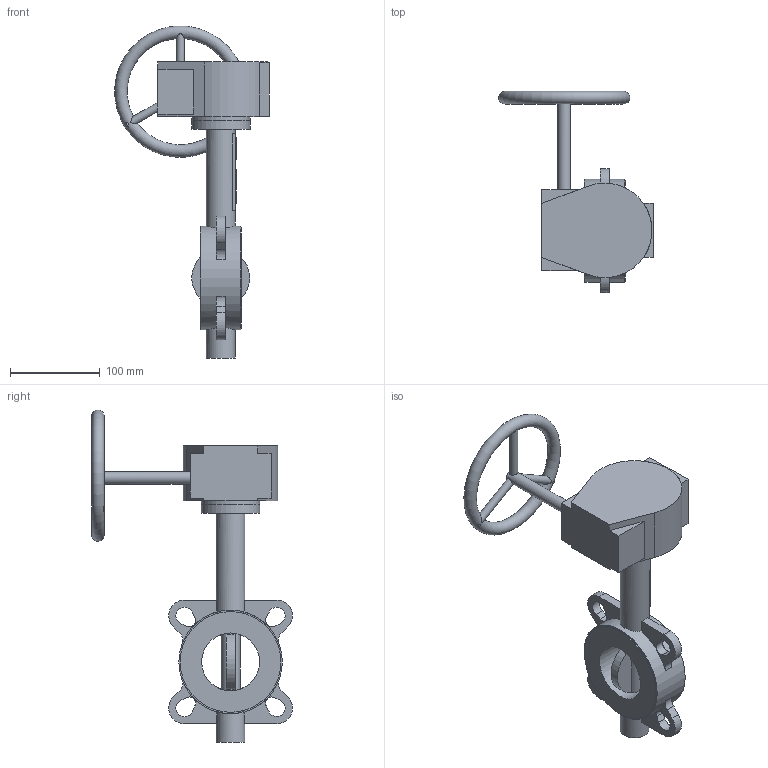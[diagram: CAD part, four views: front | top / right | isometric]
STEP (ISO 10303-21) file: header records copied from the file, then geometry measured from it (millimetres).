
FILE_DESCRIPTION(('STEP AP203'), '1');
FILE_NAME('Çàòâîð 017W.Z(÷óãóí) DN65 PN10_16 ðåäóêòîð', '', ('UNSPECIFIED'), ('UNSPECIFIED'), 'ASCON STEP Converter 1.6', 'ASCON Math Kernel', '');
FILE_SCHEMA(('CONFIG_CONTROL_DESIGN'));
Length unit declared in the file: millimetre
Bounding box: 171.92 x 223.24 x 368.96 mm (x, y, z)
Volume: 764347 mm3; surface area: 164045.4 mm2
Topology: 1 solids, 2 shells, 666 faces, 1936 edges, 1246 vertices
Faces by surface type: cylinder 458, plane 207, torus 1
Full cylindrical faces by diameter (mm): 5 x4, 8 x4, 9 x3, 12.6 x1, 14 x1, 21 x1, 32 x2, 35 x1, 64.3 x1, 65 x2, 112 x2, 115 x1
Entity records: 29704 total; most frequent: CARTESIAN_POINT 5930, DIRECTION 4187, ORIENTED_EDGE 3759, EDGE_CURVE 1911, AXIS2_PLACEMENT_3D 1635, VERTEX_POINT 1245, CIRCLE 968, LINE 917
